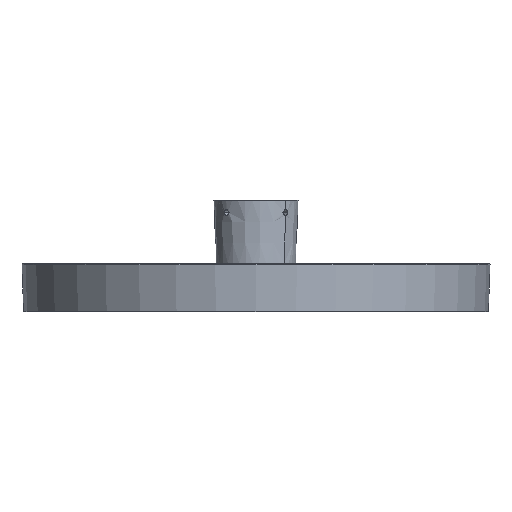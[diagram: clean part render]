
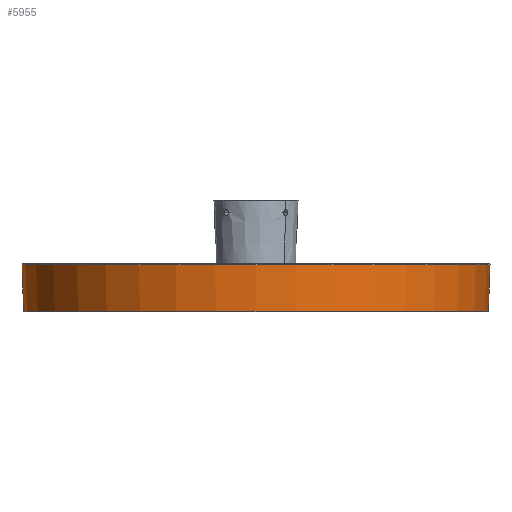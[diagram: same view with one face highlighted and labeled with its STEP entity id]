
A CAD part, front view. The second image highlights one B-rep face of the part: STEP entity #5955.
In plain terms, the highlighted conical face has half-angle 2 degrees and reference radius 204.266 mm.
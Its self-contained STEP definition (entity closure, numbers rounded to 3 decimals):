
#2926=DIRECTION('',(0.035,0.,0.999));
#2927=VECTOR('',#2926,41.025);
#2928=CARTESIAN_POINT('',(203.55,0.,
0.483));
#2929=LINE('',#2928,#2927);
#2935=CARTESIAN_POINT('',(0.,0.,0.483));
#2936=DIRECTION('',(0.,0.,-1.));
#2937=DIRECTION('',(1.,0.,0.));
#2938=AXIS2_PLACEMENT_3D('',#2935,#2936,#2937);
#2940=DIRECTION('',(-0.035,0.,0.999));
#2941=VECTOR('',#2940,41.025);
#2942=CARTESIAN_POINT('',(-203.55,0.,
0.483));
#2943=LINE('',#2942,#2941);
#2944=CARTESIAN_POINT('',(0.,0.,41.483));
#2945=DIRECTION('',(0.,0.,1.));
#2946=DIRECTION('',(-1.,0.,0.));
#2947=AXIS2_PLACEMENT_3D('',#2944,#2945,#2946);
#4053=CARTESIAN_POINT('',(-203.55,0.,
0.483));
#4054=CARTESIAN_POINT('',(203.55,0.,0.483));
#4055=VERTEX_POINT('',#4053);
#4056=VERTEX_POINT('',#4054);
#4061=CARTESIAN_POINT('',(204.982,0.,
41.483));
#4062=CARTESIAN_POINT('',(-204.982,0.,
41.483));
#4063=VERTEX_POINT('',#4061);
#4064=VERTEX_POINT('',#4062);
#5942=CARTESIAN_POINT('',(0.,0.,20.983));
#5943=DIRECTION('',(0.,0.,1.));
#5944=DIRECTION('',(1.,0.,0.));
#5945=AXIS2_PLACEMENT_3D('',#5942,#5943,#5944);
#5946=CONICAL_SURFACE('',#5945,204.266,2.);
#5948=ORIENTED_EDGE('',*,*,#5947,.T.);
#5949=ORIENTED_EDGE('',*,*,#5937,.T.);
#5951=ORIENTED_EDGE('',*,*,#5950,.T.);
#5952=ORIENTED_EDGE('',*,*,#5933,.F.);
#5953=EDGE_LOOP('',(#5948,#5949,#5951,#5952));
#5954=FACE_OUTER_BOUND('',#5953,.F.);
#5955=ADVANCED_FACE('',(#5954),#5946,.T.);
#2939=CIRCLE('',#2938,203.55);
#2948=CIRCLE('',#2947,204.982);
#5933=EDGE_CURVE('',#4056,#4063,#2929,.T.);
#5937=EDGE_CURVE('',#4055,#4064,#2943,.T.);
#5947=EDGE_CURVE('',#4056,#4055,#2939,.T.);
#5950=EDGE_CURVE('',#4064,#4063,#2948,.T.);
